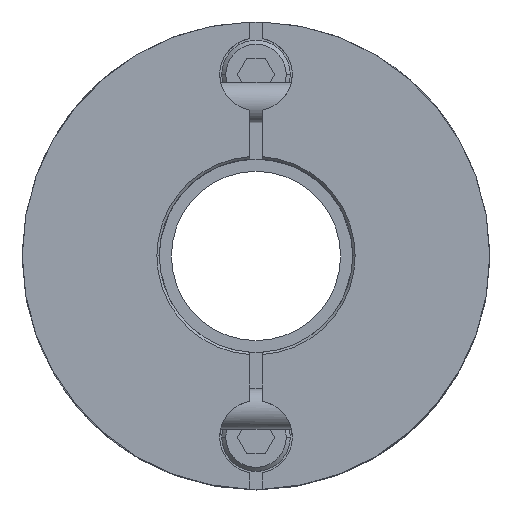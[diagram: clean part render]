
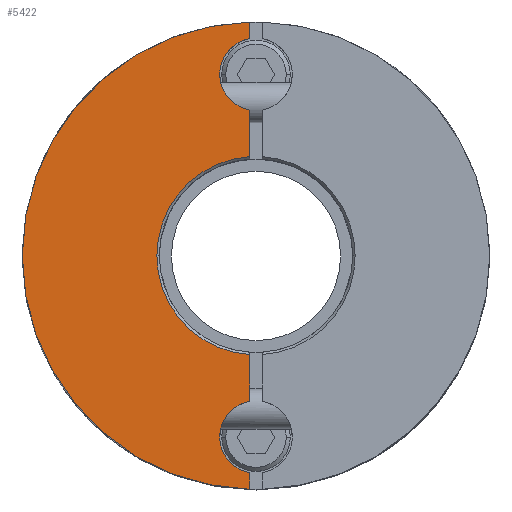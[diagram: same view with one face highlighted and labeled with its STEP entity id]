
A CAD part, top view. The second image highlights one B-rep face of the part: STEP entity #5422.
In plain terms, the highlighted planar face has unit normal (0, 0, 1).
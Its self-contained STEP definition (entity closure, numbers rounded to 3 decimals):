
#2070=CARTESIAN_POINT('',(-29.0,0.,22.4));
#2071=VERTEX_POINT('',#2070);
#2155=CARTESIAN_POINT('',(-0.75,-28.99,22.4));
#2156=VERTEX_POINT('',#2155);
#2163=CARTESIAN_POINT('',(0.0,0.,22.4));
#2164=DIRECTION('',(0.0,0.0,-1.0));
#2165=DIRECTION('',(-1.0,0.0,0.0));
#2166=AXIS2_PLACEMENT_3D('',#2163,#2164,#2165);
#2167=CIRCLE('',#2166,29.0);
#2168=EDGE_CURVE('',#2156,#2071,#2167,.T.);
#2482=CARTESIAN_POINT('',(-12.3,0.,22.4));
#2483=VERTEX_POINT('',#2482);
#2490=CARTESIAN_POINT('',(-0.75,-12.277,22.4));
#2491=VERTEX_POINT('',#2490);
#2492=CARTESIAN_POINT('',(0.0,0.,22.4));
#2493=DIRECTION('',(0.0,0.0,1.0));
#2494=DIRECTION('',(1.0,0.0,0.0));
#2495=AXIS2_PLACEMENT_3D('',#2492,#2493,#2494);
#2496=CIRCLE('',#2495,12.3);
#2497=EDGE_CURVE('',#2483,#2491,#2496,.T.);
#2828=CARTESIAN_POINT('',(-4.5,-22.5,22.4));
#2829=VERTEX_POINT('',#2828);
#2838=CARTESIAN_POINT('',(-0.75,-26.937,22.4));
#2839=VERTEX_POINT('',#2838);
#2840=CARTESIAN_POINT('',(0.,-22.5,22.4));
#2841=DIRECTION('',(0.0,0.0,-1.0));
#2842=DIRECTION('',(-1.0,0.0,0.0));
#2843=AXIS2_PLACEMENT_3D('',#2840,#2841,#2842);
#2844=CIRCLE('',#2843,4.5);
#2845=EDGE_CURVE('',#2839,#2829,#2844,.T.);
#3131=CARTESIAN_POINT('',(-4.5,22.5,22.4));
#3132=VERTEX_POINT('',#3131);
#3141=CARTESIAN_POINT('',(-0.75,18.063,22.4));
#3142=VERTEX_POINT('',#3141);
#3143=CARTESIAN_POINT('',(0.,22.5,22.4));
#3144=DIRECTION('',(0.0,0.0,-1.0));
#3145=DIRECTION('',(-1.0,0.0,0.0));
#3146=AXIS2_PLACEMENT_3D('',#3143,#3144,#3145);
#3147=CIRCLE('',#3146,4.5);
#3148=EDGE_CURVE('',#3142,#3132,#3147,.T.);
#4221=CARTESIAN_POINT('',(-0.75,26.937,22.4));
#4222=VERTEX_POINT('',#4221);
#4229=CARTESIAN_POINT('',(0.,22.5,22.4));
#4230=DIRECTION('',(0.0,0.0,-1.0));
#4231=DIRECTION('',(-1.0,0.0,0.0));
#4232=AXIS2_PLACEMENT_3D('',#4229,#4230,#4231);
#4233=CIRCLE('',#4232,4.5);
#4234=EDGE_CURVE('',#3132,#4222,#4233,.T.);
#4566=CARTESIAN_POINT('',(-0.75,-18.063,22.4));
#4567=VERTEX_POINT('',#4566);
#4574=CARTESIAN_POINT('',(0.,-22.5,22.4));
#4575=DIRECTION('',(0.0,0.0,-1.0));
#4576=DIRECTION('',(-1.0,0.0,0.0));
#4577=AXIS2_PLACEMENT_3D('',#4574,#4575,#4576);
#4578=CIRCLE('',#4577,4.5);
#4579=EDGE_CURVE('',#2829,#4567,#4578,.T.);
#4763=CARTESIAN_POINT('',(-0.75,-18.063,22.4));
#4764=DIRECTION('',(0.0,1.0,0.0));
#4765=VECTOR('',#4764,5.786);
#4766=LINE('',#4763,#4765);
#4767=EDGE_CURVE('',#4567,#2491,#4766,.T.);
#4830=CARTESIAN_POINT('',(-0.75,12.277,22.4));
#4831=VERTEX_POINT('',#4830);
#4832=CARTESIAN_POINT('',(-0.75,12.277,22.4));
#4833=DIRECTION('',(0.0,1.0,0.0));
#4834=VECTOR('',#4833,5.786);
#4835=LINE('',#4832,#4834);
#4836=EDGE_CURVE('',#4831,#3142,#4835,.T.);
#5301=CARTESIAN_POINT('',(-0.75,28.99,22.4));
#5302=VERTEX_POINT('',#5301);
#5309=CARTESIAN_POINT('',(-0.75,26.937,22.4));
#5310=DIRECTION('',(0.0,1.0,0.0));
#5311=VECTOR('',#5310,2.053);
#5312=LINE('',#5309,#5311);
#5313=EDGE_CURVE('',#4222,#5302,#5312,.T.);
#5386=CARTESIAN_POINT('',(-2.636,0.,22.4));
#5387=DIRECTION('',(0.0,0.0,1.0));
#5388=DIRECTION('',(-1.0,0.0,0.0));
#5389=AXIS2_PLACEMENT_3D('',#5386,#5387,#5388);
#5390=PLANE('',#5389);
#5391=ORIENTED_EDGE('',*,*,#3148,.T.);
#5392=ORIENTED_EDGE('',*,*,#4234,.T.);
#5393=ORIENTED_EDGE('',*,*,#5313,.T.);
#5394=CARTESIAN_POINT('',(0.0,0.,22.4));
#5395=DIRECTION('',(0.0,0.0,-1.0));
#5396=DIRECTION('',(-1.0,0.0,0.0));
#5397=AXIS2_PLACEMENT_3D('',#5394,#5395,#5396);
#5398=CIRCLE('',#5397,29.0);
#5399=EDGE_CURVE('',#2071,#5302,#5398,.T.);
#5400=ORIENTED_EDGE('',*,*,#5399,.F.);
#5401=ORIENTED_EDGE('',*,*,#2168,.F.);
#5402=CARTESIAN_POINT('',(-0.75,-28.99,22.4));
#5403=DIRECTION('',(0.0,1.0,0.0));
#5404=VECTOR('',#5403,2.053);
#5405=LINE('',#5402,#5404);
#5406=EDGE_CURVE('',#2156,#2839,#5405,.T.);
#5407=ORIENTED_EDGE('',*,*,#5406,.T.);
#5408=ORIENTED_EDGE('',*,*,#2845,.T.);
#5409=ORIENTED_EDGE('',*,*,#4579,.T.);
#5410=ORIENTED_EDGE('',*,*,#4767,.T.);
#5411=ORIENTED_EDGE('',*,*,#2497,.F.);
#5412=CARTESIAN_POINT('',(0.0,0.,22.4));
#5413=DIRECTION('',(0.0,0.0,1.0));
#5414=DIRECTION('',(1.0,0.0,0.0));
#5415=AXIS2_PLACEMENT_3D('',#5412,#5413,#5414);
#5416=CIRCLE('',#5415,12.3);
#5417=EDGE_CURVE('',#4831,#2483,#5416,.T.);
#5418=ORIENTED_EDGE('',*,*,#5417,.F.);
#5419=ORIENTED_EDGE('',*,*,#4836,.T.);
#5420=EDGE_LOOP('',(#5391,#5392,#5393,#5400,#5401,#5407,#5408,#5409,#5410,#5411,#5418,#5419));
#5421=FACE_OUTER_BOUND('',#5420,.T.);
#5422=ADVANCED_FACE('',(#5421),#5390,.T.);
